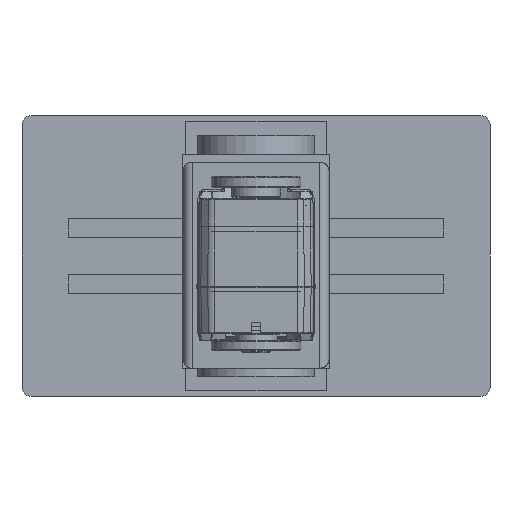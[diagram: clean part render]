
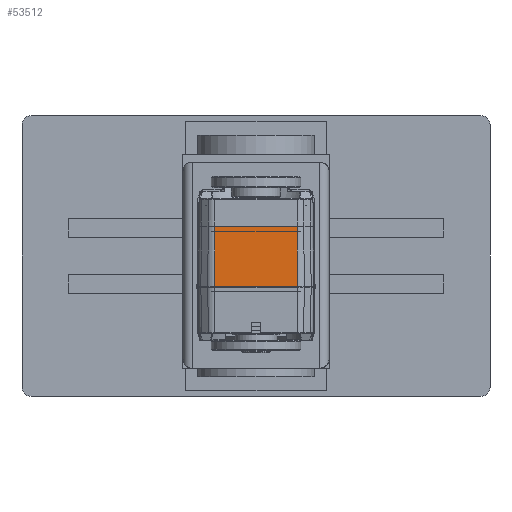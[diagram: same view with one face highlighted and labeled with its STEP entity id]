
A CAD part, left-side view. The second image highlights one B-rep face of the part: STEP entity #53512.
In plain terms, the highlighted planar face has unit normal (-1, 0, 0.009) as drawn and (-1, 0.009, 0) by its records, which use the part's own axes.
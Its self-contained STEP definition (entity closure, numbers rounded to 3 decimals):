
#52457 = PLANE('',#52458);
#52458 = AXIS2_PLACEMENT_3D('',#52459,#52460,#52461);
#52459 = CARTESIAN_POINT('',(13.257,-14.,-22.25));
#52460 = DIRECTION('',(0.,1.,0.));
#52461 = DIRECTION('',(-1.,0.,0.));
#52566 = VERTEX_POINT('',#52567);
#52567 = CARTESIAN_POINT('',(-35.612,-14.,8.868));
#52582 = CYLINDRICAL_SURFACE('',#52583,2.);
#52583 = AXIS2_PLACEMENT_3D('',#52584,#52585,#52586);
#52584 = CARTESIAN_POINT('',(-33.019,53.896,8.622));
#52585 = DIRECTION('',(-0.009,-1.,
    0.004));
#52586 = DIRECTION('',(-0.707,0.009,0.707
    ));
#52593 = EDGE_CURVE('',#52594,#52566,#52596,.T.);
#52594 = VERTEX_POINT('',#52595);
#52595 = CARTESIAN_POINT('',(-35.612,-14.,-8.868));
#52596 = SURFACE_CURVE('',#52597,(#52601,#52608),.PCURVE_S1.);
#52597 = LINE('',#52598,#52599);
#52598 = CARTESIAN_POINT('',(-35.612,-14.,-8.868));
#52599 = VECTOR('',#52600,1.);
#52600 = DIRECTION('',(0.,0.,1.));
#52601 = PCURVE('',#52457,#52602);
#52602 = DEFINITIONAL_REPRESENTATION('',(#52603),#52607);
#52603 = LINE('',#52604,#52605);
#52604 = CARTESIAN_POINT('',(48.868,13.382));
#52605 = VECTOR('',#52606,1.);
#52606 = DIRECTION('',(0.,1.));
#52607 = ( GEOMETRIC_REPRESENTATION_CONTEXT(2) 
PARAMETRIC_REPRESENTATION_CONTEXT() REPRESENTATION_CONTEXT('2D SPACE',''
  ) );
#52608 = PCURVE('',#52609,#52614);
#52609 = PLANE('',#52610);
#52610 = AXIS2_PLACEMENT_3D('',#52611,#52612,#52613);
#52611 = CARTESIAN_POINT('',(-35.5,-1.2,-13.228));
#52612 = DIRECTION('',(-1.,0.009,0.));
#52613 = DIRECTION('',(0.,0.,1.));
#52614 = DEFINITIONAL_REPRESENTATION('',(#52615),#52619);
#52615 = LINE('',#52616,#52617);
#52616 = CARTESIAN_POINT('',(4.36,-12.8));
#52617 = VECTOR('',#52618,1.);
#52618 = DIRECTION('',(1.,0.));
#52619 = ( GEOMETRIC_REPRESENTATION_CONTEXT(2) 
PARAMETRIC_REPRESENTATION_CONTEXT() REPRESENTATION_CONTEXT('2D SPACE',''
  ) );
#52638 = CYLINDRICAL_SURFACE('',#52639,2.);
#52639 = AXIS2_PLACEMENT_3D('',#52640,#52641,#52642);
#52640 = CARTESIAN_POINT('',(-33.019,53.896,-8.622));
#52641 = DIRECTION('',(-0.009,-1.,
    -0.004));
#52642 = DIRECTION('',(-1.,0.009,
    0.));
#53284 = PLANE('',#53285);
#53285 = AXIS2_PLACEMENT_3D('',#53286,#53287,#53288);
#53286 = CARTESIAN_POINT('',(-44.128,-1.2,-22.25));
#53287 = DIRECTION('',(0.,-1.,0.));
#53288 = DIRECTION('',(1.,0.,0.));
#53470 = VERTEX_POINT('',#53471);
#53471 = CARTESIAN_POINT('',(-35.5,-1.2,8.822));
#53492 = EDGE_CURVE('',#53470,#52566,#53493,.T.);
#53493 = SURFACE_CURVE('',#53494,(#53498,#53505),.PCURVE_S1.);
#53494 = LINE('',#53495,#53496);
#53495 = CARTESIAN_POINT('',(-35.5,-1.2,8.822));
#53496 = VECTOR('',#53497,1.);
#53497 = DIRECTION('',(-0.009,-1.,
    0.004));
#53498 = PCURVE('',#52582,#53499);
#53499 = DEFINITIONAL_REPRESENTATION('',(#53500),#53504);
#53500 = LINE('',#53501,#53502);
#53501 = CARTESIAN_POINT('',(0.785,55.116));
#53502 = VECTOR('',#53503,1.);
#53503 = DIRECTION('',(0.,1.));
#53504 = ( GEOMETRIC_REPRESENTATION_CONTEXT(2) 
PARAMETRIC_REPRESENTATION_CONTEXT() REPRESENTATION_CONTEXT('2D SPACE',''
  ) );
#53505 = PCURVE('',#52609,#53506);
#53506 = DEFINITIONAL_REPRESENTATION('',(#53507),#53511);
#53507 = LINE('',#53508,#53509);
#53508 = CARTESIAN_POINT('',(22.05,0.));
#53509 = VECTOR('',#53510,1.);
#53510 = DIRECTION('',(0.004,-1.));
#53511 = ( GEOMETRIC_REPRESENTATION_CONTEXT(2) 
PARAMETRIC_REPRESENTATION_CONTEXT() REPRESENTATION_CONTEXT('2D SPACE',''
  ) );
#53512 = ADVANCED_FACE('',(#53513),#52609,.T.);
#53513 = FACE_BOUND('',#53514,.T.);
#53514 = EDGE_LOOP('',(#53515,#53516,#53539,#53560));
#53515 = ORIENTED_EDGE('',*,*,#53492,.F.);
#53516 = ORIENTED_EDGE('',*,*,#53517,.T.);
#53517 = EDGE_CURVE('',#53470,#53518,#53520,.T.);
#53518 = VERTEX_POINT('',#53519);
#53519 = CARTESIAN_POINT('',(-35.5,-1.2,-8.822));
#53520 = SURFACE_CURVE('',#53521,(#53525,#53532),.PCURVE_S1.);
#53521 = LINE('',#53522,#53523);
#53522 = CARTESIAN_POINT('',(-35.5,-1.2,8.822));
#53523 = VECTOR('',#53524,1.);
#53524 = DIRECTION('',(0.,0.,-1.));
#53525 = PCURVE('',#52609,#53526);
#53526 = DEFINITIONAL_REPRESENTATION('',(#53527),#53531);
#53527 = LINE('',#53528,#53529);
#53528 = CARTESIAN_POINT('',(22.05,0.));
#53529 = VECTOR('',#53530,1.);
#53530 = DIRECTION('',(-1.,0.));
#53531 = ( GEOMETRIC_REPRESENTATION_CONTEXT(2) 
PARAMETRIC_REPRESENTATION_CONTEXT() REPRESENTATION_CONTEXT('2D SPACE',''
  ) );
#53532 = PCURVE('',#53284,#53533);
#53533 = DEFINITIONAL_REPRESENTATION('',(#53534),#53538);
#53534 = LINE('',#53535,#53536);
#53535 = CARTESIAN_POINT('',(8.628,31.072));
#53536 = VECTOR('',#53537,1.);
#53537 = DIRECTION('',(0.,-1.));
#53538 = ( GEOMETRIC_REPRESENTATION_CONTEXT(2) 
PARAMETRIC_REPRESENTATION_CONTEXT() REPRESENTATION_CONTEXT('2D SPACE',''
  ) );
#53539 = ORIENTED_EDGE('',*,*,#53540,.F.);
#53540 = EDGE_CURVE('',#52594,#53518,#53541,.T.);
#53541 = SURFACE_CURVE('',#53542,(#53546,#53553),.PCURVE_S1.);
#53542 = LINE('',#53543,#53544);
#53543 = CARTESIAN_POINT('',(-35.612,-14.,-8.868));
#53544 = VECTOR('',#53545,1.);
#53545 = DIRECTION('',(0.009,1.,
    0.004));
#53546 = PCURVE('',#52609,#53547);
#53547 = DEFINITIONAL_REPRESENTATION('',(#53548),#53552);
#53548 = LINE('',#53549,#53550);
#53549 = CARTESIAN_POINT('',(4.36,-12.8));
#53550 = VECTOR('',#53551,1.);
#53551 = DIRECTION('',(0.004,1.));
#53552 = ( GEOMETRIC_REPRESENTATION_CONTEXT(2) 
PARAMETRIC_REPRESENTATION_CONTEXT() REPRESENTATION_CONTEXT('2D SPACE',''
  ) );
#53553 = PCURVE('',#52638,#53554);
#53554 = DEFINITIONAL_REPRESENTATION('',(#53555),#53559);
#53555 = LINE('',#53556,#53557);
#53556 = CARTESIAN_POINT('',(0.,67.916));
#53557 = VECTOR('',#53558,1.);
#53558 = DIRECTION('',(0.,-1.));
#53559 = ( GEOMETRIC_REPRESENTATION_CONTEXT(2) 
PARAMETRIC_REPRESENTATION_CONTEXT() REPRESENTATION_CONTEXT('2D SPACE',''
  ) );
#53560 = ORIENTED_EDGE('',*,*,#52593,.T.);
